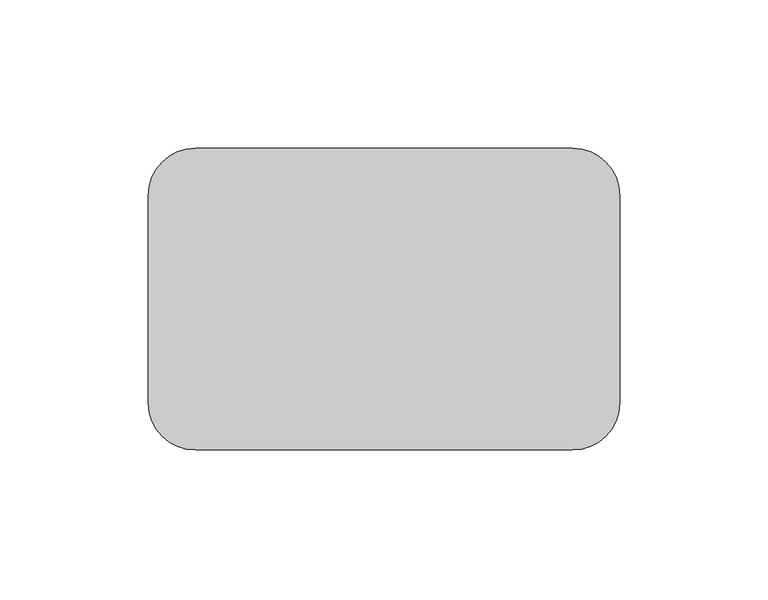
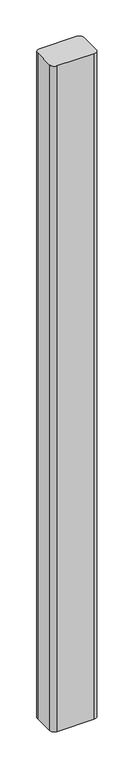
"""IFC4 building model written with IfcOpenShell, lengths in millimetres: proxy geometry, GROUTED CMU CELLS : GROUTED CMU CELLS."""

from ifc_helpers import new_model, si_unit, point, frame_2d, origin, origin_with_axes, place, context, project, spatial, polyline, circle_curve, trimmed, segment, composite_curve, outline, extrude, source, transform, mapped, element, save


def generic_models_48193b46(model_context):
    return source(origin(), model_context, "Body", "SweptSolid", [
        extrude(outline(composite_curve([segment(trimmed(circle_curve(frame_2d((63.5, 34.925)), 15.875), [point((63.5, 50.8))], [point((79.375, 34.925))], False, "CARTESIAN"), True, "CONTINUOUS"), segment(polyline([(79.375, 34.925), (79.375, -34.925)]), True, "CONTINUOUS"), segment(trimmed(circle_curve(frame_2d((63.5, -34.925)), 15.875), [point((79.375, -34.925))], [point((63.5, -50.8))], False, "CARTESIAN"), True, "CONTINUOUS"), segment(polyline([(63.5, -50.8), (-63.5, -50.8)]), True, "CONTINUOUS"), segment(trimmed(circle_curve(frame_2d((-63.5, -34.925)), 15.875), [point((-63.5, -50.8))], [point((-79.375, -34.925))], False, "CARTESIAN"), True, "CONTINUOUS"), segment(polyline([(-79.375, -34.925), (-79.375, 34.925)]), True, "CONTINUOUS"), segment(trimmed(circle_curve(frame_2d((-63.5, 34.925)), 15.875), [point((-79.375, 34.925))], [point((-63.5, 50.8))], False, "CARTESIAN"), True, "CONTINUOUS"), segment(polyline([(-63.5, 50.8), (63.5, 50.8)]), True, "CONTINUOUS")], self_intersect=False)), origin_with_axes(), (0.0, 0.0, 1.0), 2400.3),
    ])


if __name__ == "__main__":
    model = new_model("IFC4")
    model_context = context("Model", 3, world=origin())
    ifc_project = project(units=[si_unit("LENGTHUNIT", "METRE", prefix="MILLI")], contexts=[model_context])
    site = spatial("IfcSite", under=ifc_project)
    building = spatial("IfcBuilding", under=site)
    placement = place(None, origin())
    generic_models_shape = generic_models_48193b46(model_context)
    element("IfcBuildingElementProxy", 1, Name="GROUTED CMU CELLS : GROUTED CMU CELLS", ObjectType="GROUTED CMU CELLS : GROUTED CMU CELLS", at=placement, inside=building, context=model_context, shape_type="MappedRepresentation", body=[
        mapped(generic_models_shape, transform((0.0, 0.0, 0.0), x_axis=(1.0, 0.0, 0.0), y_axis=(0.0, 1.0, 0.0), z_axis=(0.0, 0.0, 1.0))),
    ])
    save(model, "model.ifc")
